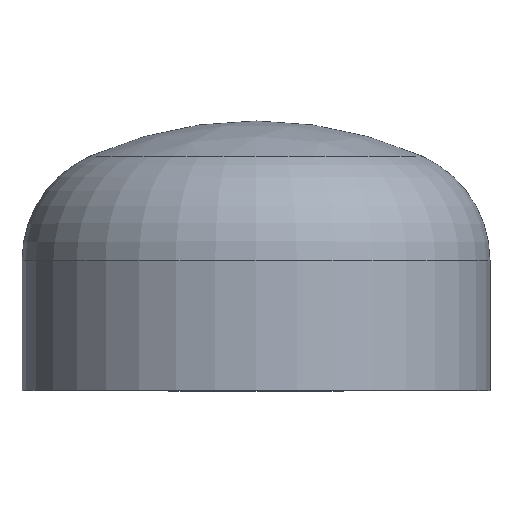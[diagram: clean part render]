
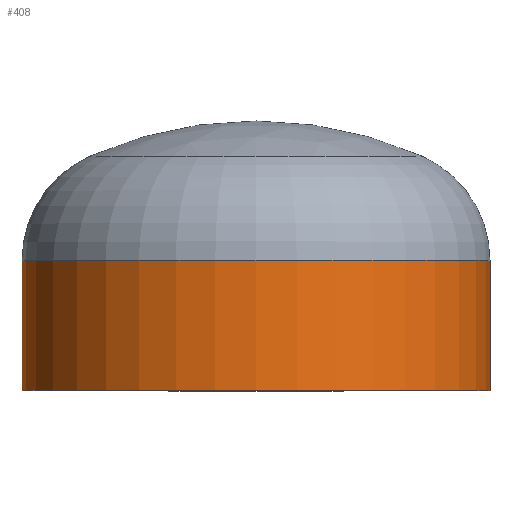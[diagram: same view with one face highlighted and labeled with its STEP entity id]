
A CAD part, top view. The second image highlights one B-rep face of the part: STEP entity #408.
In plain terms, the highlighted cylindrical face has radius 161.95 mm (diameter 323.9 mm), a partial arc.
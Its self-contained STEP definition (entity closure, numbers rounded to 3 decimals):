
#1 = ORIENTED_EDGE ( 'NONE', *, *, #395, .F. ) ;
#2 = EDGE_LOOP ( 'NONE', ( #121, #13, #1, #82 ) ) ;
#13 = ORIENTED_EDGE ( 'NONE', *, *, #195, .T. ) ;
#22 = VERTEX_POINT ( 'NONE', #250 ) ;
#48 = VERTEX_POINT ( 'NONE', #289 ) ;
#68 = VERTEX_POINT ( 'NONE', #248 ) ;
#79 = FACE_OUTER_BOUND ( 'NONE', #2, .T. ) ;
#82 = ORIENTED_EDGE ( 'NONE', *, *, #377, .F. ) ;
#91 = AXIS2_PLACEMENT_3D ( 'NONE', #317, #316, #193 ) ;
#108 = CARTESIAN_POINT ( 'NONE',  ( 0., 0., 0. ) ) ;
#118 = EDGE_CURVE ( 'NONE', #68, #333, #194, .T. ) ;
#120 = DIRECTION ( 'NONE',  ( 1., 0., 0. ) ) ;
#121 = ORIENTED_EDGE ( 'NONE', *, *, #118, .T. ) ;
#139 = DIRECTION ( 'NONE',  ( 0., -1., 0. ) ) ;
#169 = LINE ( 'NONE', #260, #409 ) ;
#193 = DIRECTION ( 'NONE',  ( 1., 0., 0. ) ) ;
#194 = CIRCLE ( 'NONE', #91, 161.95 ) ;
#195 = EDGE_CURVE ( 'NONE', #333, #22, #169, .T. ) ;
#248 = CARTESIAN_POINT ( 'NONE',  ( 161.95, 90., 0. ) ) ;
#249 = CIRCLE ( 'NONE', #262, 161.95 ) ;
#250 = CARTESIAN_POINT ( 'NONE',  ( -161.95, 0., 0. ) ) ;
#260 = CARTESIAN_POINT ( 'NONE',  ( -161.95, 0., 0. ) ) ;
#262 = AXIS2_PLACEMENT_3D ( 'NONE', #410, #277, #120 ) ;
#275 = CARTESIAN_POINT ( 'NONE',  ( -161.95, 90., 0. ) ) ;
#277 = DIRECTION ( 'NONE',  ( 0., -1., 0. ) ) ;
#282 = CARTESIAN_POINT ( 'NONE',  ( 161.95, 0., 0. ) ) ;
#286 = DIRECTION ( 'NONE',  ( 0., -1., 0. ) ) ;
#289 = CARTESIAN_POINT ( 'NONE',  ( 161.95, 0., 0. ) ) ;
#298 = DIRECTION ( 'NONE',  ( 1., 0., 0. ) ) ;
#299 = CYLINDRICAL_SURFACE ( 'NONE', #300, 161.95 ) ;
#300 = AXIS2_PLACEMENT_3D ( 'NONE', #108, #324, #298 ) ;
#314 = VECTOR ( 'NONE', #139, 1000. ) ;
#316 = DIRECTION ( 'NONE',  ( 0., -1., 0. ) ) ;
#317 = CARTESIAN_POINT ( 'NONE',  ( 0., 90., 0. ) ) ;
#324 = DIRECTION ( 'NONE',  ( 0., -1., 0. ) ) ;
#333 = VERTEX_POINT ( 'NONE', #275 ) ;
#377 = EDGE_CURVE ( 'NONE', #68, #48, #381, .T. ) ;
#381 = LINE ( 'NONE', #282, #314 ) ;
#395 = EDGE_CURVE ( 'NONE', #48, #22, #249, .T. ) ;
#408 = ADVANCED_FACE ( 'NONE', ( #79 ), #299, .T. ) ;
#409 = VECTOR ( 'NONE', #286, 1000. ) ;
#410 = CARTESIAN_POINT ( 'NONE',  ( 0., 0., 0. ) ) ;
